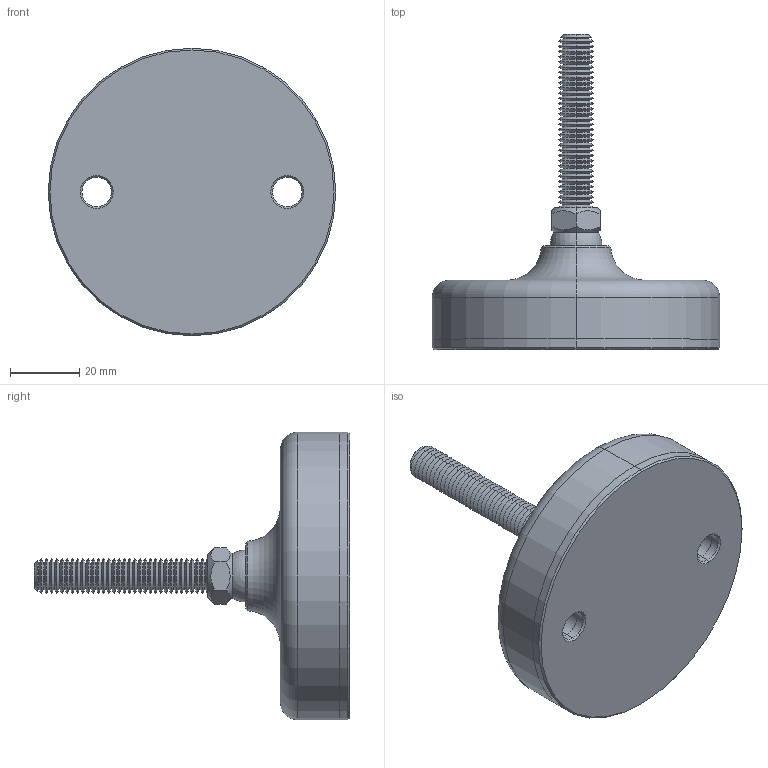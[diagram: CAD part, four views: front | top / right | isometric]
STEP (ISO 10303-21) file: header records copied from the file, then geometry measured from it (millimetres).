
FILE_DESCRIPTION (( 'STEP AP203' ), '1' );
FILE_NAME ('34724.W1000.step', '2019-11-28T22:07:15', ( '' ), ( '' ), 'SwSTEP 2.0', 'SolidWorks 2017', '' );
FILE_SCHEMA (( 'CONFIG_CONTROL_DESIGN' ));
Length unit declared in the file: millimetre
Products named in the file (4): Part1_34724.W1000; 34724.W1000; Part2_34724.W1000; Part3_34724.W1000
Assembly tree (3 placements, depth 2):
  34724.W1000
    Part1_34724.W1000
    Part2_34724.W1000
    Part3_34724.W1000
Bounding box: 83 x 91 x 83 mm (x, y, z)
Volume: 114071.5 mm3; surface area: 31062.3 mm2
Topology: 3 solids, 3 shells, 184 faces, 383 edges, 205 vertices
Faces by surface type: cone 150, plane 14, cylinder 12, sphere 4, torus 4
Entity records: 5258 total; most frequent: DIRECTION 936, CARTESIAN_POINT 908, ORIENTED_EDGE 748, AXIS2_PLACEMENT_3D 384, EDGE_CURVE 374, VERTEX_POINT 200, EDGE_LOOP 196, CIRCLE 194
